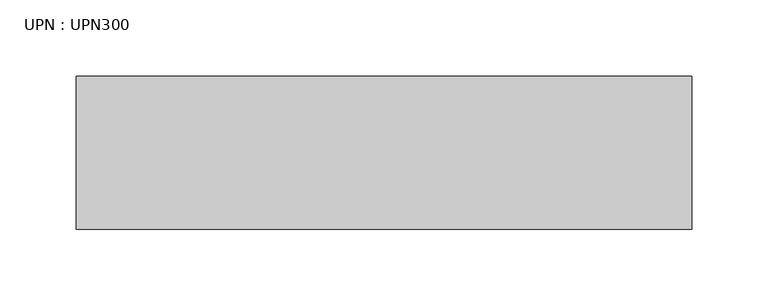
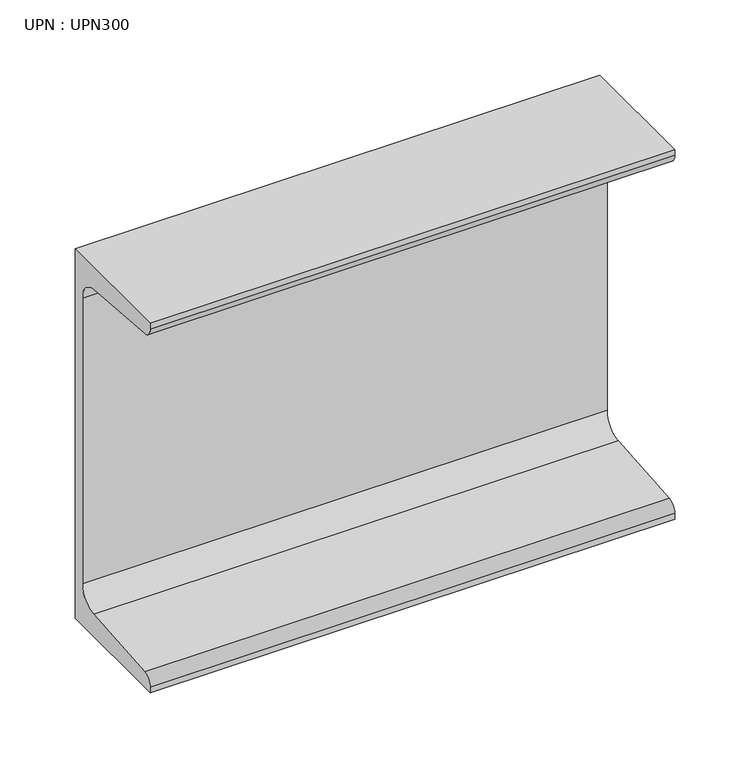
"""IFC4 building model written with IfcOpenShell, lengths in millimetres: beam geometry, UPN : UPN300."""

from ifc_helpers import new_model, si_unit, point, frame, frame_2d, origin, place, context, project, spatial, polyline, circle_curve, trimmed, segment, composite_curve, outline, extrude, source, transform, mapped, element, save


def upn_upn300_7f552821(model_context):
    return source(origin(), model_context, "Body", "SweptSolid", [
        extrude(outline(composite_curve([segment(polyline([(27.0, 150.0), (27.0, -150.0), (-73.0, -150.0), (-73.0, -145.3826224)]), True, "CONTINUOUS"), segment(trimmed(circle_curve(frame_2d((-65.0, -145.3826224)), 8.0), [point((-73.0, -145.3826224))], [point((-65.637416, -137.4080566))], False, "CARTESIAN"), True, "CONTINUOUS"), segment(polyline([(-65.637416, -137.4080566), (2.274832, -131.9797543)]), True, "CONTINUOUS"), segment(trimmed(circle_curve(frame_2d((1.0, -116.0306225)), 16.0), [point((2.274832, -131.9797543))], [point((17.0, -116.0306225))], True, "CARTESIAN"), True, "CONTINUOUS"), segment(polyline([(17.0, -116.0306225), (17.0, 116.0306225)]), True, "CONTINUOUS"), segment(trimmed(circle_curve(frame_2d((1.0, 116.0306225)), 16.0), [point((17.0, 116.0306225))], [point((2.274832, 131.9797543))], True, "CARTESIAN"), True, "CONTINUOUS"), segment(polyline([(2.274832, 131.9797543), (-65.637416, 137.4080566)]), True, "CONTINUOUS"), segment(trimmed(circle_curve(frame_2d((-65.0, 145.3826224)), 8.0), [point((-65.637416, 137.4080566))], [point((-73.0, 145.3826224))], False, "CARTESIAN"), True, "CONTINUOUS"), segment(polyline([(-73.0, 145.3826224), (-73.0, 150.0), (27.0, 150.0)]), True, "CONTINUOUS")], self_intersect=False)), frame((-228.8, 0.0, 0.0), z_axis=(1.0, 0.0, 0.0), x_axis=(0.0, 1.0, 0.0)), (0.0, 0.0, 1.0), 402.9),
    ])


if __name__ == "__main__":
    model = new_model("IFC4")
    model_context = context("Model", 3, world=origin())
    ifc_project = project(units=[si_unit("LENGTHUNIT", "METRE", prefix="MILLI")], contexts=[model_context])
    site = spatial("IfcSite", under=ifc_project)
    building = spatial("IfcBuilding", under=site)
    placement = place(None, origin())
    upn_upn300_shape = upn_upn300_7f552821(model_context)
    element("IfcBeam", 1, ObjectType="UPN : UPN300", at=placement, inside=building, context=model_context, shape_type="MappedRepresentation", body=[
        mapped(upn_upn300_shape, transform((0.0, 0.0, 0.0), x_axis=(1.0, 0.0, 0.0), y_axis=(0.0, 1.0, 0.0), z_axis=(0.0, 0.0, 1.0))),
    ])
    save(model, "model.ifc")
